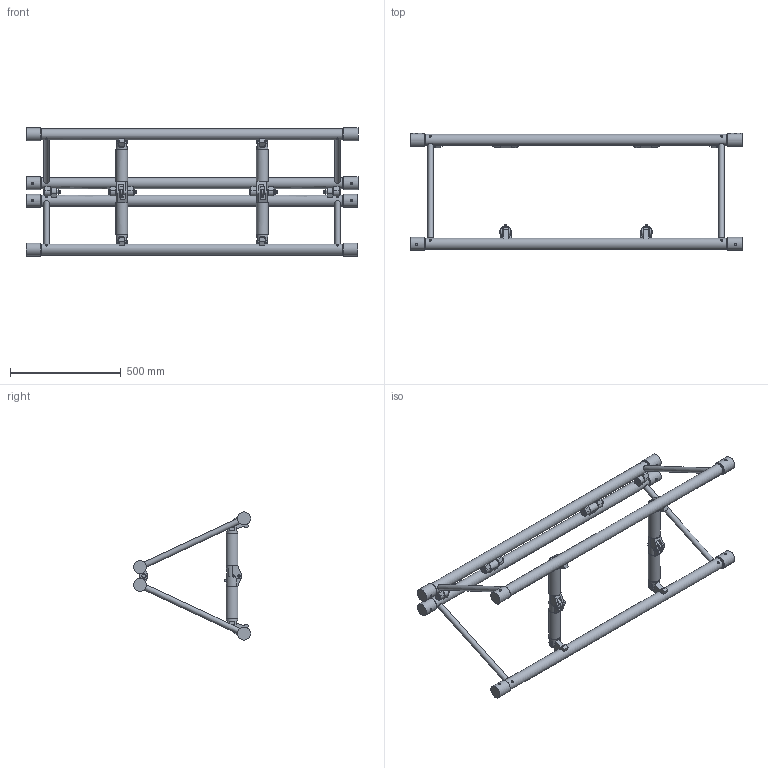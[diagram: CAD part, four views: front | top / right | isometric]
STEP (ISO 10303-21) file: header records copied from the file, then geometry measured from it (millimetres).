
FILE_DESCRIPTION(/* description */ (''),/* implementation_level */ '2;1');
FILE_NAME(/* name */ 'M:\Symbolen_NIEUW\STP\52-er truss\S52F\S52F-L150_111110085.stp',/* time_stamp */ '2017-11-10T14:16:25+01:00',/* author */ ('Kees'),/* organization */ (''),/* preprocessor_version */ 'ST-DEVELOPER v16.13',/* originating_system */ 'Autodesk Inventor 2018',/* authorisation */ '');
FILE_SCHEMA (('AUTOMOTIVE_DESIGN { 1 0 10303 214 3 1 1 }'));
Length unit declared in the file: millimetre
Products named in the file (1): 260008514
Bounding box: 1500 x 528.69 x 578.8 mm (x, y, z)
Volume: 15594352 mm3; surface area: 1495427.6 mm2
Topology: 9 solids, 9 shells, 684 faces, 1712 edges, 1120 vertices
Faces by surface type: plane 434, cylinder 174, cone 76
Full cylindrical faces by diameter (mm): 10 x8, 12 x16, 12.5 x10, 12.8 x8, 13 x14, 17.4 x8, 24 x6, 25 x4, 50 x8, 54 x4, 58.8 x8
Entity records: 21714 total; most frequent: CARTESIAN_POINT 5235, DIRECTION 3236, ORIENTED_EDGE 3108, EDGE_CURVE 1554, AXIS2_PLACEMENT_3D 1213, VERTEX_POINT 1104, EDGE_LOOP 982, LINE 810
